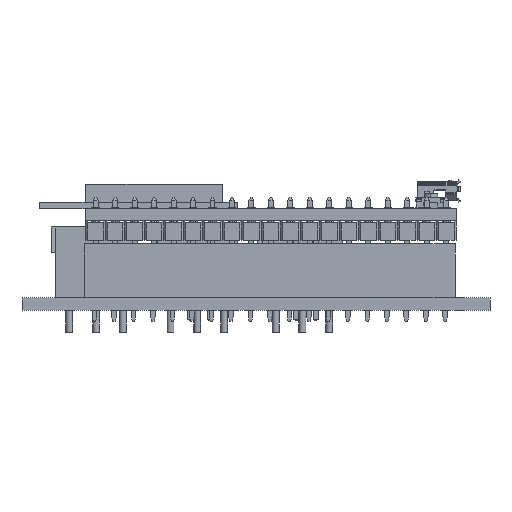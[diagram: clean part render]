
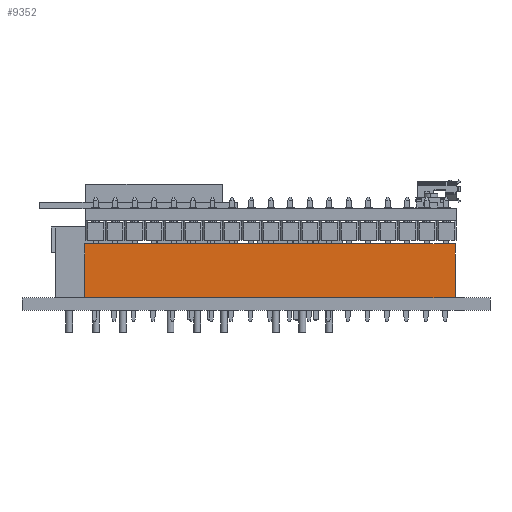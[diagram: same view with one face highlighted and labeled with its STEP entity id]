
A CAD part, left-side view. The second image highlights one B-rep face of the part: STEP entity #9352.
In plain terms, the highlighted free-form (B-spline) face has degree [1, 1] with [2, 2] control points.
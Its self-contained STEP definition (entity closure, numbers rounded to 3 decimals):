
#3420 = B_SPLINE_SURFACE_WITH_KNOTS('',1,1,(
    (#3421,#3422)
    ,(#3423,#3424
    )),.UNSPECIFIED.,.F.,.F.,.F.,(2,2),(2,2),(0.,2.54),(-7.,0.),
  .PIECEWISE_BEZIER_KNOTS.);
#3421 = CARTESIAN_POINT('',(-1.27,-46.99,7.));
#3422 = CARTESIAN_POINT('',(-1.27,-46.99,0.));
#3423 = CARTESIAN_POINT('',(1.27,-46.99,7.));
#3424 = CARTESIAN_POINT('',(1.27,-46.99,0.));
#3445 = B_SPLINE_SURFACE_WITH_KNOTS('',1,1,(
    (#3446,#3447)
    ,(#3448,#3449)),.UNSPECIFIED.,.F.,.F.,.F.,(2,2),(2,2),(-48.26,0.),(
    0.,2.54),.PIECEWISE_BEZIER_KNOTS.);
#3446 = CARTESIAN_POINT('',(1.27,1.27,7.));
#3447 = CARTESIAN_POINT('',(-1.27,1.27,7.));
#3448 = CARTESIAN_POINT('',(1.27,-46.99,7.));
#3449 = CARTESIAN_POINT('',(-1.27,-46.99,7.));
#3470 = B_SPLINE_SURFACE_WITH_KNOTS('',1,1,(
    (#3471,#3472)
    ,(#3473,#3474
    )),.UNSPECIFIED.,.F.,.F.,.F.,(2,2),(2,2),(0.,2.54),(-7.,0.),
  .PIECEWISE_BEZIER_KNOTS.);
#3471 = CARTESIAN_POINT('',(1.27,1.27,7.));
#3472 = CARTESIAN_POINT('',(1.27,1.27,0.));
#3473 = CARTESIAN_POINT('',(-1.27,1.27,7.));
#3474 = CARTESIAN_POINT('',(-1.27,1.27,0.));
#3508 = VERTEX_POINT('',#3509);
#3509 = CARTESIAN_POINT('',(-1.27,-46.99,0.));
#3523 = B_SPLINE_SURFACE_WITH_KNOTS('',1,1,(
    (#3524,#3525)
    ,(#3526,#3527
    )),.UNSPECIFIED.,.F.,.F.,.F.,(2,2),(2,2),(-48.26,0.),(2.117
    ,2.54),.PIECEWISE_BEZIER_KNOTS.);
#3524 = CARTESIAN_POINT('',(-0.847,1.27,0.));
#3525 = CARTESIAN_POINT('',(-1.27,1.27,0.));
#3526 = CARTESIAN_POINT('',(-0.847,-46.99,0.));
#3527 = CARTESIAN_POINT('',(-1.27,-46.99,0.));
#3534 = EDGE_CURVE('',#3508,#3535,#3537,.T.);
#3535 = VERTEX_POINT('',#3536);
#3536 = CARTESIAN_POINT('',(-1.27,-46.99,7.));
#3537 = SURFACE_CURVE('',#3538,(#3541,#3547),.PCURVE_S1.);
#3538 = B_SPLINE_CURVE_WITH_KNOTS('',1,(#3539,#3540),.UNSPECIFIED.,.F.,
  .F.,(2,2),(0.,7.),.PIECEWISE_BEZIER_KNOTS.);
#3539 = CARTESIAN_POINT('',(-1.27,-46.99,0.));
#3540 = CARTESIAN_POINT('',(-1.27,-46.99,7.));
#3541 = PCURVE('',#3420,#3542);
#3542 = DEFINITIONAL_REPRESENTATION('',(#3543),#3546);
#3543 = B_SPLINE_CURVE_WITH_KNOTS('',1,(#3544,#3545),.UNSPECIFIED.,.F.,
  .F.,(2,2),(0.,7.),.PIECEWISE_BEZIER_KNOTS.);
#3544 = CARTESIAN_POINT('',(0.,0.));
#3545 = CARTESIAN_POINT('',(0.,-7.));
#3546 = ( GEOMETRIC_REPRESENTATION_CONTEXT(2) 
PARAMETRIC_REPRESENTATION_CONTEXT() REPRESENTATION_CONTEXT('2D SPACE',''
  ) );
#3547 = PCURVE('',#3548,#3553);
#3548 = B_SPLINE_SURFACE_WITH_KNOTS('',1,1,(
    (#3549,#3550)
    ,(#3551,#3552
    )),.UNSPECIFIED.,.F.,.F.,.F.,(2,2),(2,2),(0.,48.26),(-7.,0.),
  .PIECEWISE_BEZIER_KNOTS.);
#3549 = CARTESIAN_POINT('',(-1.27,1.27,7.));
#3550 = CARTESIAN_POINT('',(-1.27,1.27,0.));
#3551 = CARTESIAN_POINT('',(-1.27,-46.99,7.));
#3552 = CARTESIAN_POINT('',(-1.27,-46.99,0.));
#3553 = DEFINITIONAL_REPRESENTATION('',(#3554),#3557);
#3554 = B_SPLINE_CURVE_WITH_KNOTS('',1,(#3555,#3556),.UNSPECIFIED.,.F.,
  .F.,(2,2),(0.,7.),.PIECEWISE_BEZIER_KNOTS.);
#3555 = CARTESIAN_POINT('',(48.26,-0.));
#3556 = CARTESIAN_POINT('',(48.26,-7.));
#3557 = ( GEOMETRIC_REPRESENTATION_CONTEXT(2) 
PARAMETRIC_REPRESENTATION_CONTEXT() REPRESENTATION_CONTEXT('2D SPACE',''
  ) );
#3696 = VERTEX_POINT('',#3697);
#3697 = CARTESIAN_POINT('',(-1.27,1.27,7.));
#3715 = EDGE_CURVE('',#3716,#3696,#3718,.T.);
#3716 = VERTEX_POINT('',#3717);
#3717 = CARTESIAN_POINT('',(-1.27,1.27,0.));
#3718 = SURFACE_CURVE('',#3719,(#3722,#3728),.PCURVE_S1.);
#3719 = B_SPLINE_CURVE_WITH_KNOTS('',1,(#3720,#3721),.UNSPECIFIED.,.F.,
  .F.,(2,2),(0.,7.),.PIECEWISE_BEZIER_KNOTS.);
#3720 = CARTESIAN_POINT('',(-1.27,1.27,0.));
#3721 = CARTESIAN_POINT('',(-1.27,1.27,7.));
#3722 = PCURVE('',#3470,#3723);
#3723 = DEFINITIONAL_REPRESENTATION('',(#3724),#3727);
#3724 = B_SPLINE_CURVE_WITH_KNOTS('',1,(#3725,#3726),.UNSPECIFIED.,.F.,
  .F.,(2,2),(0.,7.),.PIECEWISE_BEZIER_KNOTS.);
#3725 = CARTESIAN_POINT('',(2.54,-0.));
#3726 = CARTESIAN_POINT('',(2.54,-7.));
#3727 = ( GEOMETRIC_REPRESENTATION_CONTEXT(2) 
PARAMETRIC_REPRESENTATION_CONTEXT() REPRESENTATION_CONTEXT('2D SPACE',''
  ) );
#3728 = PCURVE('',#3548,#3729);
#3729 = DEFINITIONAL_REPRESENTATION('',(#3730),#3733);
#3730 = B_SPLINE_CURVE_WITH_KNOTS('',1,(#3731,#3732),.UNSPECIFIED.,.F.,
  .F.,(2,2),(0.,7.),.PIECEWISE_BEZIER_KNOTS.);
#3731 = CARTESIAN_POINT('',(0.,0.));
#3732 = CARTESIAN_POINT('',(0.,-7.));
#3733 = ( GEOMETRIC_REPRESENTATION_CONTEXT(2) 
PARAMETRIC_REPRESENTATION_CONTEXT() REPRESENTATION_CONTEXT('2D SPACE',''
  ) );
#3842 = EDGE_CURVE('',#3696,#3535,#3843,.T.);
#3843 = SURFACE_CURVE('',#3844,(#3847,#3853),.PCURVE_S1.);
#3844 = B_SPLINE_CURVE_WITH_KNOTS('',1,(#3845,#3846),.UNSPECIFIED.,.F.,
  .F.,(2,2),(0.,48.26),.PIECEWISE_BEZIER_KNOTS.);
#3845 = CARTESIAN_POINT('',(-1.27,1.27,7.));
#3846 = CARTESIAN_POINT('',(-1.27,-46.99,7.));
#3847 = PCURVE('',#3445,#3848);
#3848 = DEFINITIONAL_REPRESENTATION('',(#3849),#3852);
#3849 = B_SPLINE_CURVE_WITH_KNOTS('',1,(#3850,#3851),.UNSPECIFIED.,.F.,
  .F.,(2,2),(0.,48.26),.PIECEWISE_BEZIER_KNOTS.);
#3850 = CARTESIAN_POINT('',(-48.26,2.54));
#3851 = CARTESIAN_POINT('',(0.,2.54));
#3852 = ( GEOMETRIC_REPRESENTATION_CONTEXT(2) 
PARAMETRIC_REPRESENTATION_CONTEXT() REPRESENTATION_CONTEXT('2D SPACE',''
  ) );
#3853 = PCURVE('',#3548,#3854);
#3854 = DEFINITIONAL_REPRESENTATION('',(#3855),#3858);
#3855 = B_SPLINE_CURVE_WITH_KNOTS('',1,(#3856,#3857),.UNSPECIFIED.,.F.,
  .F.,(2,2),(0.,48.26),.PIECEWISE_BEZIER_KNOTS.);
#3856 = CARTESIAN_POINT('',(0.,-7.));
#3857 = CARTESIAN_POINT('',(48.26,-7.));
#3858 = ( GEOMETRIC_REPRESENTATION_CONTEXT(2) 
PARAMETRIC_REPRESENTATION_CONTEXT() REPRESENTATION_CONTEXT('2D SPACE',''
  ) );
#5821 = EDGE_CURVE('',#3716,#3508,#5822,.T.);
#5822 = SURFACE_CURVE('',#5823,(#5826,#5832),.PCURVE_S1.);
#5823 = B_SPLINE_CURVE_WITH_KNOTS('',1,(#5824,#5825),.UNSPECIFIED.,.F.,
  .F.,(2,2),(0.,48.26),.PIECEWISE_BEZIER_KNOTS.);
#5824 = CARTESIAN_POINT('',(-1.27,1.27,0.));
#5825 = CARTESIAN_POINT('',(-1.27,-46.99,0.));
#5826 = PCURVE('',#3523,#5827);
#5827 = DEFINITIONAL_REPRESENTATION('',(#5828),#5831);
#5828 = B_SPLINE_CURVE_WITH_KNOTS('',1,(#5829,#5830),.UNSPECIFIED.,.F.,
  .F.,(2,2),(0.,48.26),.PIECEWISE_BEZIER_KNOTS.);
#5829 = CARTESIAN_POINT('',(-48.26,2.54));
#5830 = CARTESIAN_POINT('',(0.,2.54));
#5831 = ( GEOMETRIC_REPRESENTATION_CONTEXT(2) 
PARAMETRIC_REPRESENTATION_CONTEXT() REPRESENTATION_CONTEXT('2D SPACE',''
  ) );
#5832 = PCURVE('',#3548,#5833);
#5833 = DEFINITIONAL_REPRESENTATION('',(#5834),#5837);
#5834 = B_SPLINE_CURVE_WITH_KNOTS('',1,(#5835,#5836),.UNSPECIFIED.,.F.,
  .F.,(2,2),(0.,48.26),.PIECEWISE_BEZIER_KNOTS.);
#5835 = CARTESIAN_POINT('',(0.,0.));
#5836 = CARTESIAN_POINT('',(48.26,-0.));
#5837 = ( GEOMETRIC_REPRESENTATION_CONTEXT(2) 
PARAMETRIC_REPRESENTATION_CONTEXT() REPRESENTATION_CONTEXT('2D SPACE',''
  ) );
#9352 = ADVANCED_FACE('',(#9353),#3548,.F.);
#9353 = FACE_BOUND('',#9354,.F.);
#9354 = EDGE_LOOP('',(#9355,#9356,#9357,#9358));
#9355 = ORIENTED_EDGE('',*,*,#3715,.T.);
#9356 = ORIENTED_EDGE('',*,*,#3842,.T.);
#9357 = ORIENTED_EDGE('',*,*,#3534,.F.);
#9358 = ORIENTED_EDGE('',*,*,#5821,.F.);
